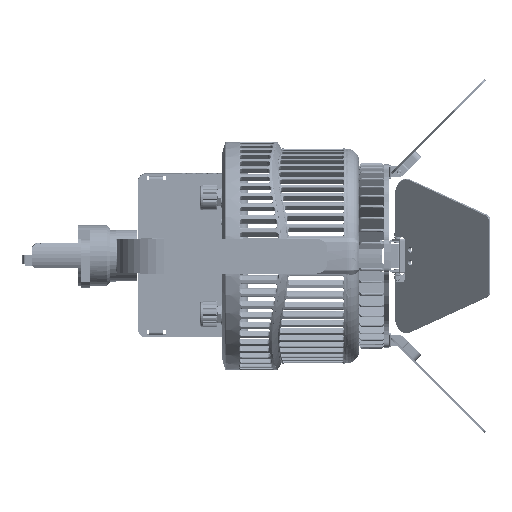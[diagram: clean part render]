
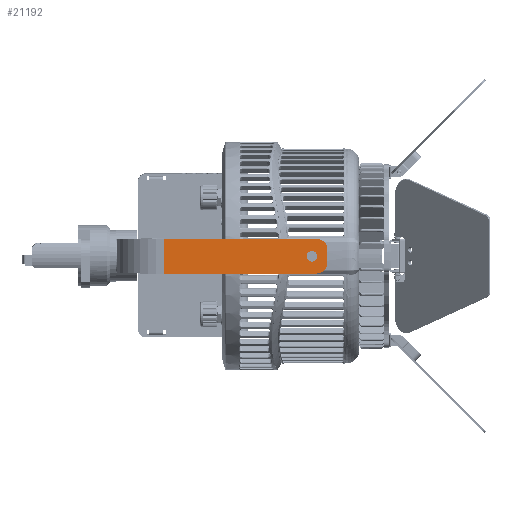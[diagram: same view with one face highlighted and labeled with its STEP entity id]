
A CAD part, left-side view. The second image highlights one B-rep face of the part: STEP entity #21192.
In plain terms, the highlighted planar face has unit normal (-1, 0, -0.003).
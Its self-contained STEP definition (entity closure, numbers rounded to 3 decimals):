
#1466 = VERTEX_POINT ( 'NONE', #180942 ) ;
#6854 = DIRECTION ( 'NONE',  ( 0., 0., 1. ) ) ;
#15132 = CARTESIAN_POINT ( 'NONE',  ( -73.1, -10., 2. ) ) ;
#16527 = CIRCLE ( 'NONE', #283846, 6. ) ;
#21192 = ADVANCED_FACE ( 'NONE', ( #86240, #296609 ), #87803, .T. ) ;
#24187 = VERTEX_POINT ( 'NONE', #36580 ) ;
#27218 = CIRCLE ( 'NONE', #269328, 3.1 ) ;
#30592 = CARTESIAN_POINT ( 'NONE',  ( -73.1, 4., -4. ) ) ;
#33687 = DIRECTION ( 'NONE',  ( -1., 0., 0. ) ) ;
#36440 = VECTOR ( 'NONE', #253410, 1000. ) ;
#36580 = CARTESIAN_POINT ( 'NONE',  ( -73.1, 10., -4. ) ) ;
#45596 = EDGE_CURVE ( 'NONE', #291328, #182808, #286205, .T. ) ;
#51598 = EDGE_CURVE ( 'NONE', #94574, #172249, #164924, .T. ) ;
#70121 = VERTEX_POINT ( 'NONE', #282887 ) ;
#71322 = ORIENTED_EDGE ( 'NONE', *, *, #152767, .F. ) ;
#73049 = AXIS2_PLACEMENT_3D ( 'NONE', #80429, #271442, #207718 ) ;
#74997 = DIRECTION ( 'NONE',  ( 0., 0., 1. ) ) ;
#78492 = CARTESIAN_POINT ( 'NONE',  ( -73.1, 0., -10.1 ) ) ;
#80429 = CARTESIAN_POINT ( 'NONE',  ( -73.1, 10., 2. ) ) ;
#84614 = CARTESIAN_POINT ( 'NONE',  ( -73.1, -10., -93. ) ) ;
#86240 = FACE_BOUND ( 'NONE', #272452, .T. ) ;
#87803 = PLANE ( 'NONE',  #73049 ) ;
#89659 = VECTOR ( 'NONE', #169338, 1000. ) ;
#93002 = CIRCLE ( 'NONE', #264277, 3.1 ) ;
#93265 = CARTESIAN_POINT ( 'NONE',  ( -73.1, 0., -7. ) ) ;
#93879 = CARTESIAN_POINT ( 'NONE',  ( -73.1, 10., -88.5 ) ) ;
#94574 = VERTEX_POINT ( 'NONE', #127721 ) ;
#99236 = ORIENTED_EDGE ( 'NONE', *, *, #274572, .T. ) ;
#100550 = EDGE_LOOP ( 'NONE', ( #103105, #282105, #103165, #301139, #71322, #99236 ) ) ;
#103105 = ORIENTED_EDGE ( 'NONE', *, *, #105860, .T. ) ;
#103165 = ORIENTED_EDGE ( 'NONE', *, *, #156713, .F. ) ;
#105860 = EDGE_CURVE ( 'NONE', #24187, #291328, #185493, .T. ) ;
#127721 = CARTESIAN_POINT ( 'NONE',  ( -73.1, -10., -4. ) ) ;
#131855 = LINE ( 'NONE', #160251, #36440 ) ;
#140051 = DIRECTION ( 'NONE',  ( 0., 0., 1. ) ) ;
#151525 = DIRECTION ( 'NONE',  ( 0., 0., 1. ) ) ;
#152767 = EDGE_CURVE ( 'NONE', #1466, #172249, #131855, .T. ) ;
#156713 = EDGE_CURVE ( 'NONE', #94574, #182808, #231445, .T. ) ;
#160251 = CARTESIAN_POINT ( 'NONE',  ( -73.1, 10., 2. ) ) ;
#164924 = CIRCLE ( 'NONE', #235415, 6. ) ;
#166765 = CARTESIAN_POINT ( 'NONE',  ( -73.1, 10., -93. ) ) ;
#168498 = EDGE_CURVE ( 'NONE', #70121, #188439, #27218, .T. ) ;
#169338 = DIRECTION ( 'NONE',  ( 0., -1., 0. ) ) ;
#172249 = VERTEX_POINT ( 'NONE', #304183 ) ;
#174972 = VECTOR ( 'NONE', #204645, 1000. ) ;
#180942 = CARTESIAN_POINT ( 'NONE',  ( -73.1, 4., 2. ) ) ;
#182808 = VERTEX_POINT ( 'NONE', #84614 ) ;
#183408 = VECTOR ( 'NONE', #218449, 1000. ) ;
#185493 = LINE ( 'NONE', #93879, #183408 ) ;
#185859 = CARTESIAN_POINT ( 'NONE',  ( -73.1, -4., -4. ) ) ;
#188439 = VERTEX_POINT ( 'NONE', #78492 ) ;
#204645 = DIRECTION ( 'NONE',  ( 0., 0., -1. ) ) ;
#207718 = DIRECTION ( 'NONE',  ( 0., 0., 1. ) ) ;
#207930 = DIRECTION ( 'NONE',  ( -1., 0., 0. ) ) ;
#218449 = DIRECTION ( 'NONE',  ( 0., 0., -1. ) ) ;
#223469 = EDGE_CURVE ( 'NONE', #188439, #70121, #93002, .T. ) ;
#231445 = LINE ( 'NONE', #15132, #174972 ) ;
#235415 = AXIS2_PLACEMENT_3D ( 'NONE', #185859, #207930, #140051 ) ;
#243129 = DIRECTION ( 'NONE',  ( -1., 0., 0. ) ) ;
#245321 = CARTESIAN_POINT ( 'NONE',  ( -73.1, 0., -7. ) ) ;
#246928 = DIRECTION ( 'NONE',  ( -1., 0., 0. ) ) ;
#253410 = DIRECTION ( 'NONE',  ( 0., -1., 0. ) ) ;
#264277 = AXIS2_PLACEMENT_3D ( 'NONE', #93265, #243129, #151525 ) ;
#269328 = AXIS2_PLACEMENT_3D ( 'NONE', #245321, #33687, #6854 ) ;
#271442 = DIRECTION ( 'NONE',  ( -1., 0., 0. ) ) ;
#272452 = EDGE_LOOP ( 'NONE', ( #280127, #311967 ) ) ;
#274572 = EDGE_CURVE ( 'NONE', #1466, #24187, #16527, .T. ) ;
#280127 = ORIENTED_EDGE ( 'NONE', *, *, #168498, .F. ) ;
#282105 = ORIENTED_EDGE ( 'NONE', *, *, #45596, .T. ) ;
#282887 = CARTESIAN_POINT ( 'NONE',  ( -73.1, 0., -3.9 ) ) ;
#283846 = AXIS2_PLACEMENT_3D ( 'NONE', #30592, #246928, #74997 ) ;
#286205 = LINE ( 'NONE', #311374, #89659 ) ;
#291328 = VERTEX_POINT ( 'NONE', #166765 ) ;
#296609 = FACE_OUTER_BOUND ( 'NONE', #100550, .T. ) ;
#301139 = ORIENTED_EDGE ( 'NONE', *, *, #51598, .T. ) ;
#304183 = CARTESIAN_POINT ( 'NONE',  ( -73.1, -4., 2. ) ) ;
#311374 = CARTESIAN_POINT ( 'NONE',  ( -73.1, 10., -93. ) ) ;
#311967 = ORIENTED_EDGE ( 'NONE', *, *, #223469, .F. ) ;
